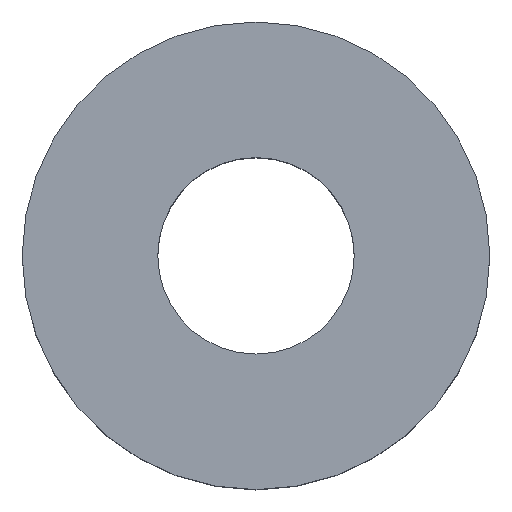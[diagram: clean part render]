
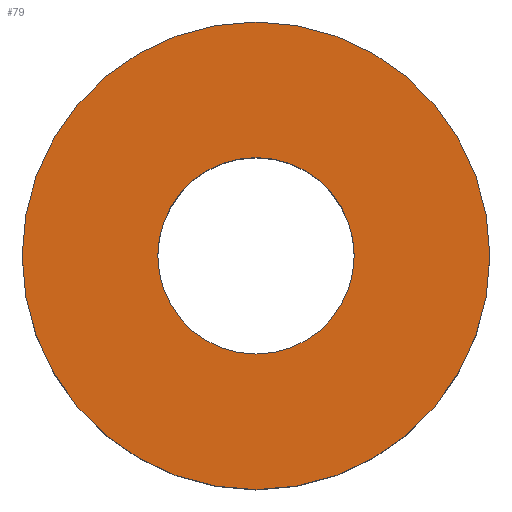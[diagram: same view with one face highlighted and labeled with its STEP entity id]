
A CAD part, top view. The second image highlights one B-rep face of the part: STEP entity #79.
In plain terms, the highlighted planar face has unit normal (0, 0, 1).
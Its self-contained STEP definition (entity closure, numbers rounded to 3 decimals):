
#1 = CARTESIAN_POINT ( 'NONE',  ( 0., 0., 20. ) ) ;
#4 = VERTEX_POINT ( 'NONE', #21 ) ;
#11 = DIRECTION ( 'NONE',  ( 1., 0., 0. ) ) ;
#15 = AXIS2_PLACEMENT_3D ( 'NONE', #1, #97, #45 ) ;
#19 = AXIS2_PLACEMENT_3D ( 'NONE', #239, #32, #166 ) ;
#21 = CARTESIAN_POINT ( 'NONE',  ( -25., 0., 20. ) ) ;
#22 = CIRCLE ( 'NONE', #65, 10.5 ) ;
#23 = ORIENTED_EDGE ( 'NONE', *, *, #29, .F. ) ;
#26 = DIRECTION ( 'NONE',  ( 1., 0., 0. ) ) ;
#29 = EDGE_CURVE ( 'NONE', #71, #231, #98, .T. ) ;
#30 = DIRECTION ( 'NONE',  ( 1., 0., 0. ) ) ;
#32 = DIRECTION ( 'NONE',  ( 0., 0., 1. ) ) ;
#33 = EDGE_LOOP ( 'NONE', ( #210, #102 ) ) ;
#45 = DIRECTION ( 'NONE',  ( 1., 0., 0. ) ) ;
#48 = DIRECTION ( 'NONE',  ( 0., 0., 1. ) ) ;
#49 = CARTESIAN_POINT ( 'NONE',  ( 0., 0., 20. ) ) ;
#63 = VERTEX_POINT ( 'NONE', #80 ) ;
#65 = AXIS2_PLACEMENT_3D ( 'NONE', #127, #48, #11 ) ;
#71 = VERTEX_POINT ( 'NONE', #179 ) ;
#79 = ADVANCED_FACE ( 'NONE', ( #140, #121 ), #191, .T. ) ;
#80 = CARTESIAN_POINT ( 'NONE',  ( 25., 0., 20. ) ) ;
#97 = DIRECTION ( 'NONE',  ( 0., 0., 1. ) ) ;
#98 = CIRCLE ( 'NONE', #15, 10.5 ) ;
#102 = ORIENTED_EDGE ( 'NONE', *, *, #238, .T. ) ;
#108 = CIRCLE ( 'NONE', #19, 25. ) ;
#110 = CARTESIAN_POINT ( 'NONE',  ( -10.5, 0., 20. ) ) ;
#112 = EDGE_LOOP ( 'NONE', ( #23, #156 ) ) ;
#121 = FACE_OUTER_BOUND ( 'NONE', #33, .T. ) ;
#127 = CARTESIAN_POINT ( 'NONE',  ( 0., 0., 20. ) ) ;
#136 = CARTESIAN_POINT ( 'NONE',  ( 0., 0., 20. ) ) ;
#140 = FACE_BOUND ( 'NONE', #112, .T. ) ;
#149 = AXIS2_PLACEMENT_3D ( 'NONE', #136, #232, #26 ) ;
#156 = ORIENTED_EDGE ( 'NONE', *, *, #247, .F. ) ;
#166 = DIRECTION ( 'NONE',  ( 1., 0., 0. ) ) ;
#175 = AXIS2_PLACEMENT_3D ( 'NONE', #49, #222, #30 ) ;
#179 = CARTESIAN_POINT ( 'NONE',  ( 10.5, 0., 20. ) ) ;
#191 = PLANE ( 'NONE',  #149 ) ;
#207 = CIRCLE ( 'NONE', #175, 25. ) ;
#210 = ORIENTED_EDGE ( 'NONE', *, *, #218, .T. ) ;
#218 = EDGE_CURVE ( 'NONE', #4, #63, #108, .T. ) ;
#222 = DIRECTION ( 'NONE',  ( 0., 0., 1. ) ) ;
#231 = VERTEX_POINT ( 'NONE', #110 ) ;
#232 = DIRECTION ( 'NONE',  ( 0., 0., 1. ) ) ;
#238 = EDGE_CURVE ( 'NONE', #63, #4, #207, .T. ) ;
#239 = CARTESIAN_POINT ( 'NONE',  ( 0., 0., 20. ) ) ;
#247 = EDGE_CURVE ( 'NONE', #231, #71, #22, .T. ) ;
